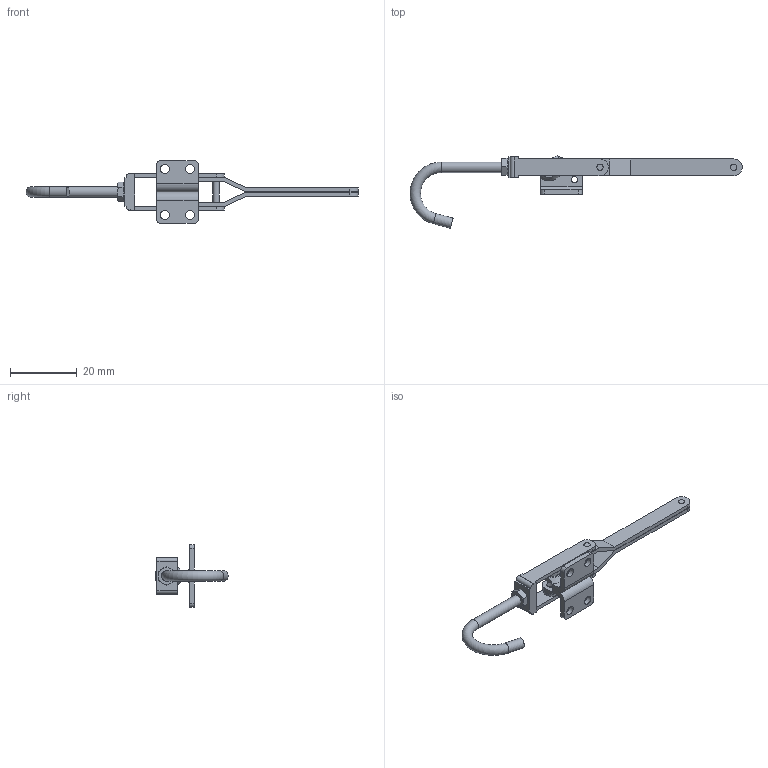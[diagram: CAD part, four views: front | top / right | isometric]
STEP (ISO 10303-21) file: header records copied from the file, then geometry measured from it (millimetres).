
FILE_DESCRIPTION((' '),'2;1');
FILE_NAME('C:\Users\Nick\Desktop\PCH-101\PCH-200.stp','2015-07-28T17:37:19',(' '),(' '),' ','ACIS',' ');
FILE_SCHEMA(('CONFIG_CONTROL_DESIGN'));
Length unit declared in the file: inch
Products named in the file (9): C:\Users\Nick\Desktop\PCH-101\PCH-200.stp; Body1; Body2; Body3; Body4; Body5; Body6; Body7; Body8
Assembly tree (8 placements, depth 2):
  C:\Users\Nick\Desktop\PCH-101\PCH-200.stp
    Body1
    Body2
    Body3
    Body4
    Body5
    Body6
    Body7
    Body8
Bounding box: 99.37 x 21.72 x 18.75 mm (x, y, z)
Volume: 2202.1 mm3; surface area: 4102.9 mm2
Topology: 10 solids, 10 shells, 132 faces, 340 edges, 228 vertices
Faces by surface type: plane 49, cylinder 37, bspline 30, cone 15, torus 1
Full cylindrical faces by diameter (mm): 1.865 x2, 1.87 x1, 1.875 x1, 1.88 x2, 1.89 x2, 1.9 x1, 2.51 x1, 2.67 x1, 2.68 x4, 3.13 x2
Entity records: 6043 total; most frequent: CARTESIAN_POINT 1693, ORIENTED_EDGE 636, DIRECTION 614, EDGE_CURVE 318, AXIS2_PLACEMENT_3D 234, VERTEX_POINT 228, EDGE_LOOP 190, VECTOR 146
